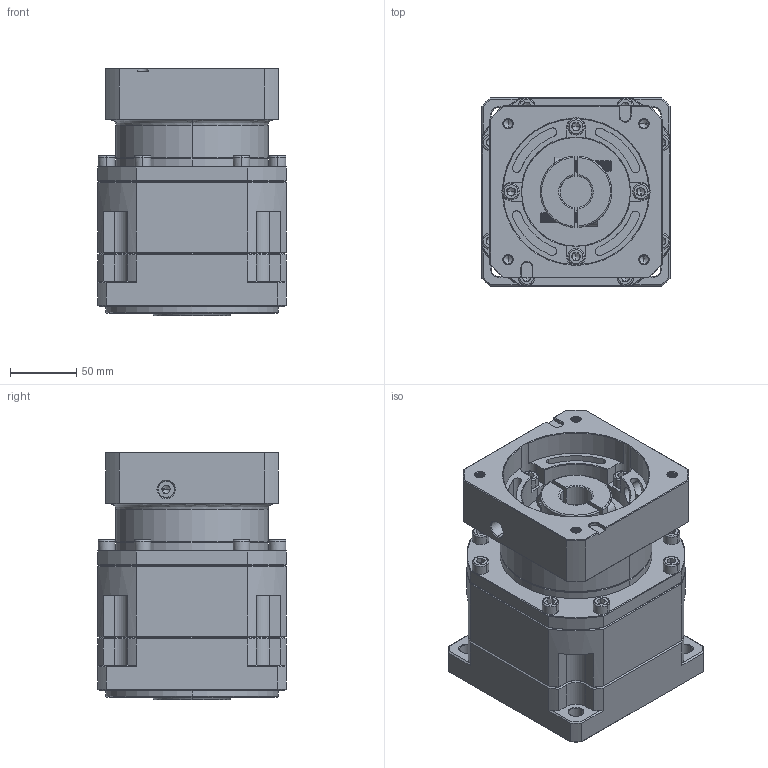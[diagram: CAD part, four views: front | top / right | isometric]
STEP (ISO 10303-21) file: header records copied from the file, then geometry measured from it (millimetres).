
FILE_DESCRIPTION (( 'STEP AP214' ), '1' );
FILE_NAME ('ZB142A-K35-L1-P2-24-110-145-M8.step', '2023-09-01T11:45:23', ( '' ), ( '' ), 'SwSTEP 2.0', 'SolidWorks 2016', '' );
FILE_SCHEMA (( 'AUTOMOTIVE_DESIGN' ));
Length unit declared in the file: millimetre
Products named in the file (1): ZB142A-K35-L1-P2-24-110-145-M8
Bounding box: 142 x 142 x 186.8 mm (x, y, z)
Volume: 2611894.9 mm3; surface area: 280311 mm2
Topology: 7 solids, 7 shells, 2546 faces, 6742 edges, 4309 vertices
Faces by surface type: plane 1226, cylinder 481, bspline 403, cone 381, torus 55
Entity records: 138379 total; most frequent: CARTESIAN_POINT 50399, ORIENTED_EDGE 13380, DIRECTION 10973, EDGE_CURVE 6690, VERTEX_POINT 4309, LINE 4243, VECTOR 4243, AXIS2_PLACEMENT_3D 3365
